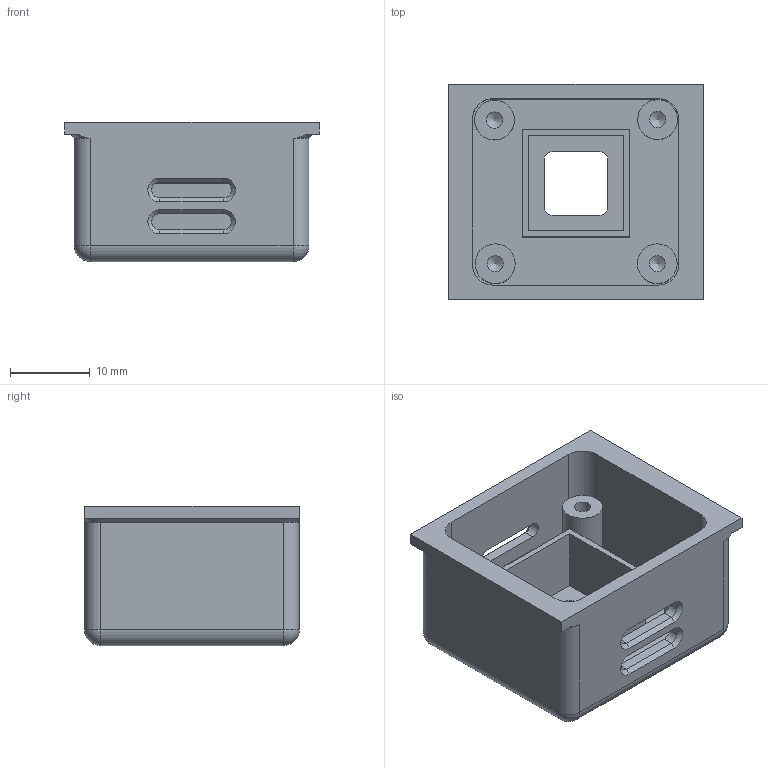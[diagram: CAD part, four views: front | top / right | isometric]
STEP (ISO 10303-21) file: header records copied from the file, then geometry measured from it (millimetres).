
FILE_DESCRIPTION(('STEP AP242 Edition 2','STEP AP242 Edition 2''CAx-IF Rec.Pracs.---Representation and Presentation of Product Manufacturing Information (PMI)---4.0---2014-10-13','STEP AP242 Edition 2''CAx-IF Rec.Pracs.---Representation and Presentation of Product Manufacturing Information (PMI)---4.0---2014-10-13''CAx-IF Rec.Pracs.---3D Tessellated Geometry---0.4---2014-09-14','STEP AP242 Edition 2''CAx-IF Rec.Pracs.---Representation and Presentation of Product Manufacturing Information (PMI)---4.0---2014-10-13''CAx-IF Rec.Pracs.---3D Tessellated Geometry---0.4---2014-09-14''2;1','STEP AP242 Edition 2''CAx-IF Rec.Pracs.---Representation and Presentation of Product Manufacturing Information (PMI)---4.0---2014-10-13''CAx-IF Rec.Pracs.---3D Tessellated Geometry---0.4---2014-09-14''2;1''CAx-IF Rec.Pracs.---User Defined Attributes---1.5---2016-08-15'),'2;1');
FILE_NAME('/vol/tmp/translate-13651982295911169668/SCD41_box1 - SenEnclosure.step','2026-04-25T00:05:20',(''),(''),'ST-DEVELOPER v20','ONSHAPE BY PTC INC, 1.214',' ');
FILE_SCHEMA(('AP242_MANAGED_MODEL_BASED_3D_ENGINEERING_MIM_LF { 1 0 10303 442 3 1 4 }'));
Length unit declared in the file: metre
Products named in the file (1): SenEnclosure
Bounding box: 32 x 27 x 17.49 mm (x, y, z)
Volume: 5134.7 mm3; surface area: 6474 mm2
Topology: 1 solids, 1 shells, 103 faces, 254 edges, 156 vertices
Faces by surface type: plane 51, cylinder 32, cone 16, sphere 4
Full cylindrical faces by diameter (mm): 2.05 x4, 5 x4
Entity records: 2995 total; most frequent: DIRECTION 516, CARTESIAN_POINT 501, ORIENTED_EDGE 460, EDGE_CURVE 230, AXIS2_PLACEMENT_3D 183, VERTEX_POINT 152, LINE 150, VECTOR 150
